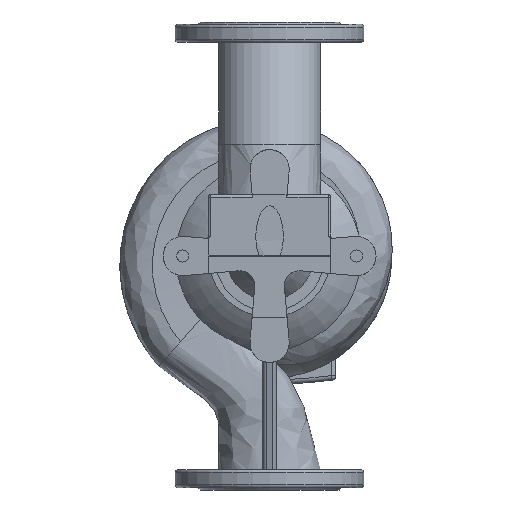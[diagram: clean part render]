
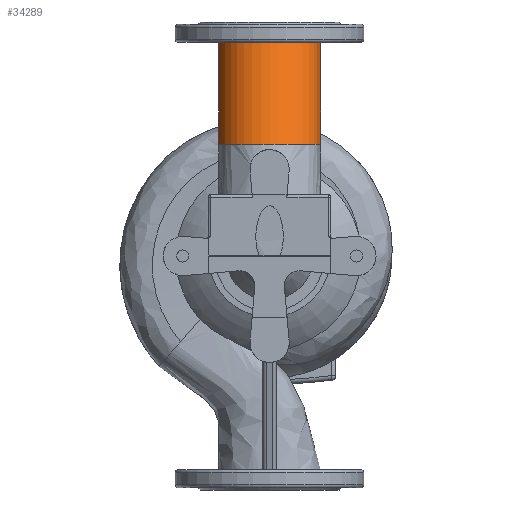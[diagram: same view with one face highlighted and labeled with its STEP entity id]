
A CAD part, front view. The second image highlights one B-rep face of the part: STEP entity #34289.
In plain terms, the highlighted free-form (B-spline) face has degree [3, 1] with [4, 2] control points.
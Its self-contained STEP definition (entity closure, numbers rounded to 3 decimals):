
#475 = CARTESIAN_POINT ( 'NONE',  ( 67.5, 0., 283. ) ) ;
#2227 = CARTESIAN_POINT ( 'NONE',  ( 67.5, -135., 283. ) ) ;
#2482 = CARTESIAN_POINT ( 'NONE',  ( -67.5, -135., 283. ) ) ;
#4449 = CARTESIAN_POINT ( 'NONE',  ( -67.5, 0., 283. ) ) ;
#5386 = VERTEX_POINT ( 'NONE', #45215 ) ;
#6118 = ORIENTED_EDGE ( 'NONE', *, *, #25064, .F. ) ;
#6244 = CARTESIAN_POINT ( 'NONE',  ( 67.5, -197.955, 147.993 ) ) ;
#8745 = B_SPLINE_CURVE_WITH_KNOTS ( 'NONE', 1,
 ( #49777, #475 ),
 .UNSPECIFIED., .F., .F.,
 ( 2, 2 ),
 ( 0., 1. ),
 .UNSPECIFIED. ) ;
#10028 =( BOUNDED_SURFACE ( )  B_SPLINE_SURFACE ( 3, 1, ( 
 ( #11064, #43487 ),
 ( #6244, #2227 ),
 ( #46713, #2482 ),
 ( #47232, #30873 ) ),
 .UNSPECIFIED., .F., .F., .F. ) 
 B_SPLINE_SURFACE_WITH_KNOTS ( ( 4, 4 ),
 ( 2, 2 ),
 ( 0.5, 1. ),
 ( 0., 1. ),
 .UNSPECIFIED. ) 
 GEOMETRIC_REPRESENTATION_ITEM ( )  RATIONAL_B_SPLINE_SURFACE ( (
 ( 1., 1.),
 ( 0.333, 0.333),
 ( 0.333, 0.333),
 ( 1., 1.) ) ) 
 REPRESENTATION_ITEM ( '' )  SURFACE ( )  );
#11064 = CARTESIAN_POINT ( 'NONE',  ( 67.5, -62.955, 147.993 ) ) ;
#15896 = AXIS2_PLACEMENT_3D ( 'NONE', #22781, #17954, #30250 ) ;
#17953 = CARTESIAN_POINT ( 'NONE',  ( 0., 0., 283. ) ) ;
#17954 = DIRECTION ( 'NONE',  ( 0., 0., -1. ) ) ;
#18722 = VERTEX_POINT ( 'NONE', #40377 ) ;
#19309 = VERTEX_POINT ( 'NONE', #28581 ) ;
#20706 = ORIENTED_EDGE ( 'NONE', *, *, #36510, .T. ) ;
#20751 = EDGE_LOOP ( 'NONE', ( #6118, #37863, #20706, #49941 ) ) ;
#20835 = B_SPLINE_CURVE_WITH_KNOTS ( 'NONE', 1,
 ( #28836, #4449 ),
 .UNSPECIFIED., .F., .F.,
 ( 2, 2 ),
 ( 0., 1. ),
 .UNSPECIFIED. ) ;
#22781 = CARTESIAN_POINT ( 'NONE',  ( 0., -62.955, 147.993 ) ) ;
#25064 = EDGE_CURVE ( 'NONE', #5386, #52474, #32137, .T. ) ;
#27043 = AXIS2_PLACEMENT_3D ( 'NONE', #17953, #29970, #50901 ) ;
#28581 = CARTESIAN_POINT ( 'NONE',  ( 67.5, 0., 283. ) ) ;
#28836 = CARTESIAN_POINT ( 'NONE',  ( -67.5, -62.955, 147.993 ) ) ;
#29552 = CIRCLE ( 'NONE', #27043, 67.5 ) ;
#29970 = DIRECTION ( 'NONE',  ( 0., 0., -1. ) ) ;
#30250 = DIRECTION ( 'NONE',  ( -1., 0., 0. ) ) ;
#30254 = CARTESIAN_POINT ( 'NONE',  ( -67.5, -62.955, 147.993 ) ) ;
#30873 = CARTESIAN_POINT ( 'NONE',  ( -67.5, 0., 283. ) ) ;
#32137 = CIRCLE ( 'NONE', #15896, 67.5 ) ;
#32507 = EDGE_CURVE ( 'NONE', #52474, #18722, #20835, .T. ) ;
#34289 = ADVANCED_FACE ( 'NONE', ( #51524 ), #10028, .F. ) ;
#36510 = EDGE_CURVE ( 'NONE', #19309, #18722, #29552, .T. ) ;
#37863 = ORIENTED_EDGE ( 'NONE', *, *, #38750, .T. ) ;
#38750 = EDGE_CURVE ( 'NONE', #5386, #19309, #8745, .T. ) ;
#40377 = CARTESIAN_POINT ( 'NONE',  ( -67.5, 0., 283. ) ) ;
#43487 = CARTESIAN_POINT ( 'NONE',  ( 67.5, 0., 283. ) ) ;
#45215 = CARTESIAN_POINT ( 'NONE',  ( 67.5, -62.955, 147.993 ) ) ;
#46713 = CARTESIAN_POINT ( 'NONE',  ( -67.5, -197.955, 147.993 ) ) ;
#47232 = CARTESIAN_POINT ( 'NONE',  ( -67.5, -62.955, 147.993 ) ) ;
#49777 = CARTESIAN_POINT ( 'NONE',  ( 67.5, -62.955, 147.993 ) ) ;
#49941 = ORIENTED_EDGE ( 'NONE', *, *, #32507, .F. ) ;
#50901 = DIRECTION ( 'NONE',  ( -1., 0., 0. ) ) ;
#51524 = FACE_OUTER_BOUND ( 'NONE', #20751, .T. ) ;
#52474 = VERTEX_POINT ( 'NONE', #30254 ) ;
